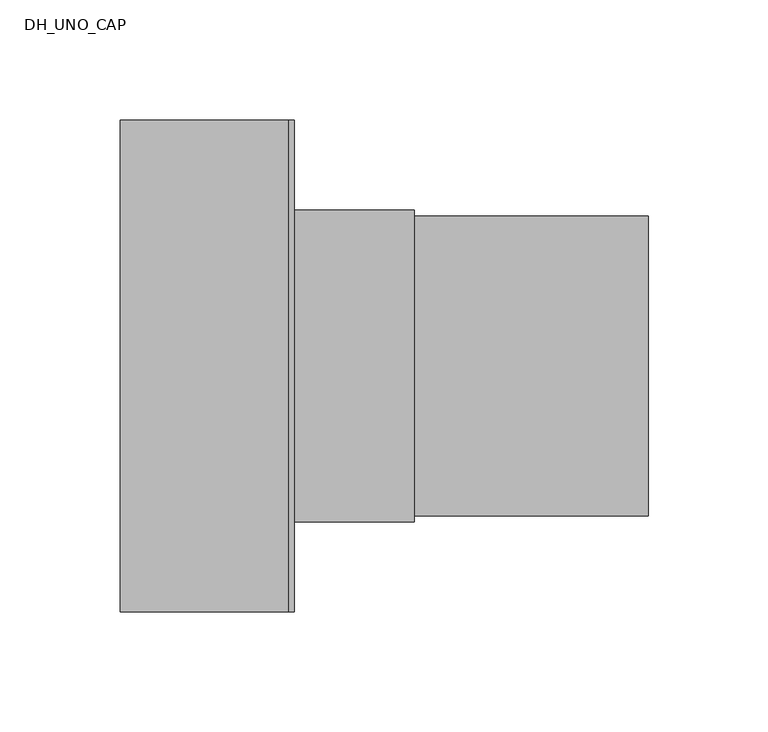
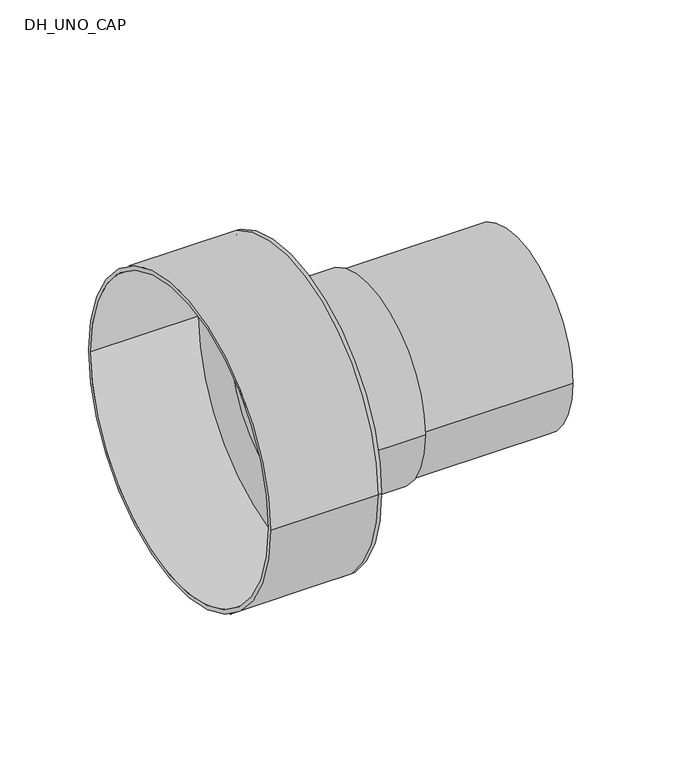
"""IFC4 building model written with IfcOpenShell, lengths in millimetres: pipe fitting geometry, DH_UNO_CAP : INSULPEX UNO + 11 Heating - Rubber Cap."""

import ifcopenshell
import ifcopenshell.guid

model = None  # the IFC model being written
_history = None  # IfcOwnerHistory: only IFC2X3 demands one
_inside = {}  # id of a spatial element -> (the spatial element, [elements in it])
_under = {}  # id of a project, library or spatial element -> (it, [spatial elements below it])
_declared = {}  # id of a project -> (the project, [libraries it declares])
_typed = {}  # id of a type object -> (the type object, [elements of that type])
_made_of = {}  # id of a material, layer set ... -> (it, [elements and type objects made of it])


def new_model(schema):
    """Start an empty IFC model of exactly this schema.

    Asked for "IFC4X3", IfcOpenShell would pick the latest addendum, in which some entities
    have other attributes; the version numbers below select the first issue.
    IFC2X3 requires an IfcOwnerHistory on every rooted entity: one is made here for all.
    """
    global model, _history
    if schema == "IFC4X3":
        model = ifcopenshell.file(schema_version=(4, 3, 0, 0))
    else:
        model = ifcopenshell.file(schema=schema)
    _inside.clear()
    _under.clear()
    _declared.clear()
    _typed.clear()
    _made_of.clear()
    _history = None
    if model.schema == "IFC2X3":
        org = make("IfcOrganization", Name="unknown")
        user = make(
            "IfcPersonAndOrganization",
            ThePerson=make("IfcPerson", FamilyName="unknown"),
            TheOrganization=org,
        )
        app = make(
            "IfcApplication",
            ApplicationDeveloper=org,
            Version="unknown",
            ApplicationFullName="unknown",
            ApplicationIdentifier="unknown",
        )
        _history = make(
            "IfcOwnerHistory",
            OwningUser=user,
            OwningApplication=app,
            ChangeAction="ADDED",
            CreationDate=0,
        )
    return model


def make(cls, **values):
    """One entity of the class cls with the attributes given. An attribute that is None is left unset."""
    return model.create_entity(
        cls, **{name: value for name, value in values.items() if value is not None}
    )


def rooted(cls, **values):
    """An entity with a GlobalId (a new one), such as an element, a storey or a relation."""
    return make(cls, GlobalId=ifcopenshell.guid.new(), OwnerHistory=_history, **values)


def si_unit(unit_type, name, prefix=None):
    """IfcSIUnit, for example si_unit("LENGTHUNIT", "METRE", prefix="MILLI")."""
    return make("IfcSIUnit", UnitType=unit_type, Prefix=prefix, Name=name)


def assignment(units):
    """IfcUnitAssignment: the units of a project."""
    return None if units is None else make("IfcUnitAssignment", Units=units)


def point(xyz):
    """IfcCartesianPoint."""
    return None if xyz is None else make("IfcCartesianPoint", Coordinates=xyz)


def direction(xyz):
    """IfcDirection."""
    return None if xyz is None else make("IfcDirection", DirectionRatios=xyz)


def frame(location, z_axis=None, x_axis=None):
    """IfcAxis2Placement3D, a coordinate frame: its origin and axes. An axis left out is left unset."""
    return make(
        "IfcAxis2Placement3D",
        Location=point(location),
        Axis=direction(z_axis),
        RefDirection=direction(x_axis),
    )


def frame_2d(location, x_axis=None):
    """IfcAxis2Placement2D, a coordinate frame in the plane: its origin and x axis."""
    return make(
        "IfcAxis2Placement2D", Location=point(location), RefDirection=direction(x_axis)
    )


def origin():
    """The frame at (0, 0, 0) with its axes left unset."""
    return frame((0.0, 0.0, 0.0))


def origin_2d():
    """The frame at (0, 0) in the plane with its x axis left unset."""
    return frame_2d((0.0, 0.0))


def place(relative_to, where):
    """IfcLocalPlacement: puts the frame where relative to a parent placement (None: the world)."""
    return make(
        "IfcLocalPlacement", PlacementRelTo=relative_to, RelativePlacement=where
    )


def context(
    kind, dimensions, precision=None, world=None, true_north=None, identifier=None
):
    """IfcGeometricRepresentationContext, for example the 3D "Model" context."""
    return make(
        "IfcGeometricRepresentationContext",
        ContextIdentifier=identifier,
        ContextType=kind,
        CoordinateSpaceDimension=dimensions,
        Precision=precision,
        WorldCoordinateSystem=world,
        TrueNorth=true_north,
    )


def project(units=None, contexts=None):
    """IfcProject with its units and contexts."""
    return rooted(
        "IfcProject",
        Name="project",
        RepresentationContexts=contexts,
        UnitsInContext=assignment(units),
    )


def spatial(cls, under=None, at=None, **own):
    """A site, building, storey or space (cls), placed at a placement, below another one or the project."""
    s = rooted(cls, ObjectPlacement=at, **own)
    if under is not None:
        _under.setdefault(under.id(), (under, []))[1].append(s)
    return s


def polyline(points):
    """IfcPolyline through the points."""
    return make("IfcPolyline", Points=[point(p) for p in points])


def circle_curve(where, radius):
    """IfcCircle in the frame where."""
    return make("IfcCircle", Position=where, Radius=radius)


def trimmed(basis, trim1, trim2, sense, master):
    """IfcTrimmedCurve: the piece of a basis curve between two trims."""
    return make(
        "IfcTrimmedCurve",
        BasisCurve=basis,
        Trim1=trim1,
        Trim2=trim2,
        SenseAgreement=sense,
        MasterRepresentation=master,
    )


def segment(curve, same_sense, transition):
    """IfcCompositeCurveSegment."""
    return make(
        "IfcCompositeCurveSegment",
        Transition=transition,
        SameSense=same_sense,
        ParentCurve=curve,
    )


def composite_curve(segments, self_intersect=None):
    """IfcCompositeCurve: segments joined end to end."""
    return make("IfcCompositeCurve", Segments=segments, SelfIntersect=self_intersect)


def outline(outer, holes=None, kind="AREA"):
    """IfcArbitraryClosedProfileDef: a profile drawn as a closed curve; with holes, ...WithVoids."""
    if holes is None:
        return make("IfcArbitraryClosedProfileDef", ProfileType=kind, OuterCurve=outer)
    return make(
        "IfcArbitraryProfileDefWithVoids",
        ProfileType=kind,
        OuterCurve=outer,
        InnerCurves=holes,
    )


def extrude(swept, where, along, depth):
    """IfcExtrudedAreaSolid: the profile swept, set in the frame where, extruded along a direction by depth."""
    return make(
        "IfcExtrudedAreaSolid",
        SweptArea=swept,
        Position=where,
        ExtrudedDirection=direction(along),
        Depth=depth,
    )


def shape(context_of_items, identifier, shape_type, items):
    """IfcShapeRepresentation: the items that make up one representation, for example the "Body"."""
    return make(
        "IfcShapeRepresentation",
        ContextOfItems=context_of_items,
        RepresentationIdentifier=identifier,
        RepresentationType=shape_type,
        Items=items,
    )


def source(mapping_origin, context_of_items, identifier, shape_type, items):
    """IfcRepresentationMap: a shape defined once, which mapped items show again and again."""
    return make(
        "IfcRepresentationMap",
        MappingOrigin=mapping_origin,
        MappedRepresentation=shape(context_of_items, identifier, shape_type, items),
    )


def transform(
    local_origin,
    x_axis=None,
    y_axis=None,
    z_axis=None,
    scale=None,
    scale2=None,
    scale3=None,
    uniform=True,
):
    """IfcCartesianTransformationOperator3D, or its non-uniform kind. x_axis, y_axis, z_axis: its Axis1, 2, 3."""
    if uniform:
        return make(
            "IfcCartesianTransformationOperator3D",
            Axis1=direction(x_axis),
            Axis2=direction(y_axis),
            LocalOrigin=point(local_origin),
            Scale=scale,
            Axis3=direction(z_axis),
        )
    return make(
        "IfcCartesianTransformationOperator3DnonUniform",
        Axis1=direction(x_axis),
        Axis2=direction(y_axis),
        LocalOrigin=point(local_origin),
        Scale=scale,
        Axis3=direction(z_axis),
        Scale2=scale2,
        Scale3=scale3,
    )


def mapped(mapping_source, mapping_target):
    """IfcMappedItem: shows the shape of a source again, moved by a transform."""
    return make(
        "IfcMappedItem", MappingSource=mapping_source, MappingTarget=mapping_target
    )


def made_of(thing, what):
    """Note that an element or type object is made of a material, layer set ...; save() writes the relation."""
    if what is not None:
        _made_of.setdefault(what.id(), (what, []))[1].append(thing)
    return thing


def element(
    cls,
    number,
    at=None,
    inside=None,
    cuts=None,
    type_object=None,
    material=None,
    context=None,
    identifier="Body",
    shape_type=None,
    held_by="IfcProductDefinitionShape",
    body=None,
    shapes=None,
    **own,
):
    """One element of the class cls, such as IfcWall. Its Tag is "e" and its number.

    at: its placement. inside: the storey or other place that contains it. cuts: it is an
    opening in that element (IfcRelVoidsElement). A single representation is given by context,
    identifier, shape_type and body (its items); several are given by shapes. held_by: the class
    of the entity that holds the representations. save() writes the other relations.
    """
    e = rooted(cls, Tag="e%d" % number, ObjectPlacement=at, **own)
    if body is not None:
        shapes = [shape(context, identifier, shape_type, body)]
    if shapes is not None:
        e.Representation = make(held_by, Representations=shapes)
    if inside is not None:
        _inside.setdefault(inside.id(), (inside, []))[1].append(e)
    if cuts is not None:
        rooted(
            "IfcRelVoidsElement", RelatingBuildingElement=cuts, RelatedOpeningElement=e
        )
    if type_object is not None:
        _typed.setdefault(type_object.id(), (type_object, []))[1].append(e)
    return made_of(e, material)


def aggregate(whole, parts):
    """IfcRelAggregates: a whole, such as a stair, and the parts it consists of."""
    return rooted("IfcRelAggregates", RelatingObject=whole, RelatedObjects=parts)


def save(model, path):
    """Write the relations noted so far, then the file.

    IfcRelAggregates (storeys below a building ...), IfcRelContainedInSpatialStructure (elements
    in a storey), IfcRelDefinesByType, IfcRelAssociatesMaterial and IfcRelDeclares: one each for
    every whole, place, type object, material and project.
    """
    for whole, parts in _under.values():
        aggregate(whole, parts)
    for where, things in _inside.values():
        rooted(
            "IfcRelContainedInSpatialStructure",
            RelatedElements=things,
            RelatingStructure=where,
        )
    for kind, things in _typed.values():
        rooted("IfcRelDefinesByType", RelatedObjects=things, RelatingType=kind)
    for what, things in _made_of.values():
        rooted("IfcRelAssociatesMaterial", RelatedObjects=things, RelatingMaterial=what)
    for by, libraries in _declared.values():
        rooted("IfcRelDeclares", RelatingContext=by, RelatedDefinitions=libraries)
    model.write(path)


def plane_surface(at):
    """IfcPlane: the flat surface through the origin of the frame at, square to its z axis."""
    return make("IfcPlane", Position=at)


def cylinder_surface(at, radius):
    """IfcCylindricalSurface: all points at the distance radius from the z axis of the frame at."""
    return make("IfcCylindricalSurface", Position=at, Radius=radius)


def revolved_surface(curve, axis_point, axis_direction):
    """IfcSurfaceOfRevolution: the curve turned about the line through axis_point along axis_direction."""
    return make(
        "IfcSurfaceOfRevolution",
        SweptCurve=make("IfcArbitraryOpenProfileDef", ProfileType="CURVE", Curve=curve),
        AxisPosition=make("IfcAxis1Placement", Location=point(axis_point), Axis=direction(axis_direction)),
    )


def advanced_brep(points, edges, surfaces, faces):
    """IfcAdvancedBrep: a solid bounded by faces that lie on surfaces and meet in shared edges.

    An edge is (start, end): straight between two places in points (the first is 0);
    or (start, end, curve); or (start, end, curve, False) where it runs against its curve.
    A face is (place in surfaces, loops), or (place, loops, False) where it looks against
    its surface's normal. A loop lists edges by number (the first is 1), with a minus sign
    where the edge is run from its end to its start. The first loop is the outer one.
    """
    corners = [point(p) for p in points]
    vertices = [make("IfcVertexPoint", VertexGeometry=c) for c in corners]
    made = []
    for start, end, *more in edges:
        made.append(
            make(
                "IfcEdgeCurve",
                EdgeStart=vertices[start],
                EdgeEnd=vertices[end],
                EdgeGeometry=more[0] if more else make("IfcPolyline", Points=[corners[start], corners[end]]),
                SameSense=more[1] if len(more) > 1 else True,
            )
        )
    hull = []
    for where, loops, *sense in faces:
        bounds = []
        for j, loop in enumerate(loops):
            ring = [make("IfcOrientedEdge", EdgeElement=made[abs(k) - 1], Orientation=k > 0) for k in loop]
            bounds.append(
                make(
                    "IfcFaceOuterBound" if j == 0 else "IfcFaceBound",
                    Bound=make("IfcEdgeLoop", EdgeList=ring),
                    Orientation=True,
                )
            )
        hull.append(make("IfcAdvancedFace", Bounds=bounds, FaceSurface=surfaces[where], SameSense=sense[0] if sense else True))
    return make("IfcAdvancedBrep", Outer=make("IfcClosedShell", CfsFaces=hull))


def dh_uno_cap_b1d16c7a(model_context):
    return source(origin(), model_context, "Body", "SolidModel", [
        extrude(outline(composite_curve([segment(trimmed(circle_curve(origin_2d(), 62.5), [point((-62.5, 0.0))], [point((62.5, 0.0))], False, "CARTESIAN"), True, "CONTINUOUS"), segment(trimmed(circle_curve(origin_2d(), 62.5), [point((62.5, 0.0))], [point((-62.5, 0.0))], False, "CARTESIAN"), True, "CONTINUOUS")], self_intersect=False), holes=[composite_curve([segment(trimmed(circle_curve(origin_2d(), 51.1), [point((-51.1, 0.0))], [point((51.1, 0.0))], True, "CARTESIAN"), True, "CONTINUOUS"), segment(trimmed(circle_curve(origin_2d(), 51.1), [point((51.1, 0.0))], [point((-51.1, 0.0))], True, "CARTESIAN"), True, "CONTINUOUS")], self_intersect=False)]), frame((0.0, 0.0, 0.0), z_axis=(1.0, 0.0, 0.0), x_axis=(0.0, 1.0, 0.0)), (0.0, 0.0, 1.0), 150.0),
        advanced_brep(
        [(-70.0, -102.5, 0.0), (-70.0, 102.5, 0.0), (-70.0, -100.0, 0.0), (-70.0, 100.0, 0.0), (0.0, -100.0, 0.0), (0.0, 100.0, 0.0), (0.0, -102.5, 0.0), (0.0, 102.5, 0.0), (0.0, 62.5, 0.0), (0.0, -62.5, 0.0), (2.5, -102.5, 0.0), (2.5, 102.5, 0.0), (2.5, -62.5, 0.0), (2.5, 62.5, 0.0)],
        [
            (0, 1, circle_curve(frame((-70.0, 0.0, 0.0), z_axis=(-1.0, 0.0, 0.0), x_axis=(0.0, 1.0, 0.0)), 102.5)),
            (1, 0, circle_curve(frame((-70.0, 0.0, 0.0), z_axis=(-1.0, 0.0, 0.0), x_axis=(0.0, 1.0, 0.0)), 102.5)),
            (2, 3, circle_curve(frame((-70.0, 0.0, 0.0), z_axis=(1.0, 0.0, 0.0), x_axis=(0.0, 1.0, 0.0)), 100.0)),
            (3, 2, circle_curve(frame((-70.0, 0.0, 0.0), z_axis=(1.0, 0.0, 0.0), x_axis=(0.0, 1.0, 0.0)), 100.0)),
            (2, 4),
            (4, 5, circle_curve(frame((0.0, 0.0, 0.0), z_axis=(1.0, 0.0, 0.0), x_axis=(0.0, 1.0, 0.0)), 100.0)),
            (5, 3),
            (5, 4, circle_curve(frame((0.0, 0.0, 0.0), z_axis=(1.0, 0.0, 0.0), x_axis=(0.0, 1.0, 0.0)), 100.0)),
            (0, 6),
            (6, 7, circle_curve(frame((0.0, 0.0, 0.0), z_axis=(-1.0, 0.0, 0.0), x_axis=(0.0, 1.0, 0.0)), 102.5)),
            (7, 1),
            (7, 6, circle_curve(frame((0.0, 0.0, 0.0), z_axis=(-1.0, 0.0, 0.0), x_axis=(0.0, 1.0, 0.0)), 102.5)),
            (8, 9, circle_curve(frame((0.0, 0.0, 0.0), z_axis=(1.0, 0.0, 0.0), x_axis=(0.0, 1.0, 0.0)), 62.5)),
            (9, 8, circle_curve(frame((0.0, 0.0, 0.0), z_axis=(1.0, 0.0, 0.0), x_axis=(0.0, 1.0, 0.0)), 62.5)),
            (10, 11, circle_curve(frame((2.5, 0.0, 0.0), z_axis=(1.0, 0.0, 0.0), x_axis=(0.0, 1.0, 0.0)), 102.5)),
            (11, 10, circle_curve(frame((2.5, 0.0, 0.0), z_axis=(1.0, 0.0, 0.0), x_axis=(0.0, 1.0, 0.0)), 102.5)),
            (12, 13, circle_curve(frame((2.5, 0.0, 0.0), z_axis=(-1.0, 0.0, 0.0), x_axis=(0.0, 1.0, 0.0)), 62.5)),
            (13, 12, circle_curve(frame((2.5, 0.0, 0.0), z_axis=(-1.0, 0.0, 0.0), x_axis=(0.0, 1.0, 0.0)), 62.5)),
            (11, 7),
            (6, 10),
            (8, 13),
            (12, 9),
        ],
        [
            plane_surface(frame((-70.0, 0.0, 0.0), z_axis=(-1.0, 0.0, 0.0), x_axis=(0.0, 0.0, 1.0))),
            revolved_surface(polyline([(0.0, 100.0, 0.0), (-70.0, 100.0, 0.0)]), (-70.0, 0.0, 0.0), (1.0, 0.0, 0.0)),
            cylinder_surface(frame((-70.0, 0.0, 0.0), z_axis=(-1.0, 0.0, 0.0), x_axis=(0.0, 1.0, 0.0)), 102.5),
            plane_surface(frame((0.0, 0.0, 0.0), z_axis=(-1.0, 0.0, 0.0), x_axis=(0.0, 0.0, 1.0))),
            plane_surface(frame((2.5, 0.0, 0.0), z_axis=(1.0, 0.0, 0.0), x_axis=(0.0, 0.0, 1.0))),
            cylinder_surface(frame((0.0, 0.0, 0.0), z_axis=(-1.0, 0.0, 0.0), x_axis=(0.0, 1.0, 0.0)), 102.5),
            revolved_surface(polyline([(0.0, 62.5, 0.0), (2.5, 62.5, 0.0)]), (0.0, 0.0, 0.0), (-1.0, 0.0, 0.0)),
        ],
        [
            (0, [[1, 2], [3, 4]]),
            (1, [[-3, 5, 6, 7]]),
            (1, [[-4, -7, 8, -5]]),
            (2, [[-1, 9, 10, 11]]),
            (2, [[-2, -11, 12, -9]]),
            (3, [[-6, -8], [13, 14]]),
            (4, [[15, 16], [17, 18]]),
            (5, [[-16, 19, -10, 20]]),
            (5, [[-15, -20, -12, -19]]),
            (6, [[21, -17, 22, -13]]),
            (6, [[-21, -14, -22, -18]]),
        ],
    ),
        extrude(outline(composite_curve([segment(trimmed(circle_curve(origin_2d(), 65.0), [point((-65.0, 0.0))], [point((65.0, 0.0))], False, "CARTESIAN"), True, "CONTINUOUS"), segment(trimmed(circle_curve(origin_2d(), 65.0), [point((65.0, 0.0))], [point((-65.0, 0.0))], False, "CARTESIAN"), True, "CONTINUOUS")], self_intersect=False), holes=[composite_curve([segment(trimmed(circle_curve(origin_2d(), 62.5), [point((-62.5, 0.0))], [point((62.5, 0.0))], True, "CARTESIAN"), True, "CONTINUOUS"), segment(trimmed(circle_curve(origin_2d(), 62.5), [point((62.5, 0.0))], [point((-62.5, 0.0))], True, "CARTESIAN"), True, "CONTINUOUS")], self_intersect=False)]), frame((2.5, 0.0, 0.0), z_axis=(1.0, 0.0, 0.0), x_axis=(0.0, 1.0, 0.0)), (0.0, 0.0, 1.0), 50.0),
    ])


if __name__ == "__main__":
    model = new_model("IFC4")
    model_context = context("Model", 3, world=origin())
    ifc_project = project(units=[si_unit("LENGTHUNIT", "METRE", prefix="MILLI")], contexts=[model_context])
    site = spatial("IfcSite", under=ifc_project)
    building = spatial("IfcBuilding", under=site)
    placement = place(None, origin())
    dh_uno_cap_shape = dh_uno_cap_b1d16c7a(model_context)
    element("IfcPipeFitting", 1, ObjectType="DH_UNO_CAP : INSULPEX UNO + 11 Heating - Rubber Cap", at=placement, inside=building, context=model_context, shape_type="MappedRepresentation", body=[
        mapped(dh_uno_cap_shape, transform((0.0, 0.0, 0.0), x_axis=(1.0, 0.0, 0.0), y_axis=(0.0, 1.0, 0.0), z_axis=(0.0, 0.0, 1.0))),
    ])
    save(model, "model.ifc")
